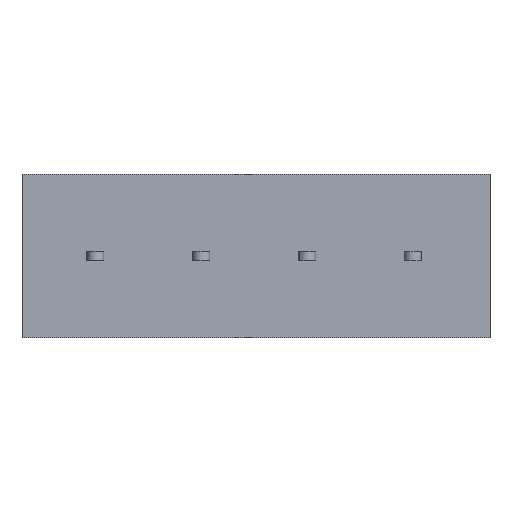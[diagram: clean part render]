
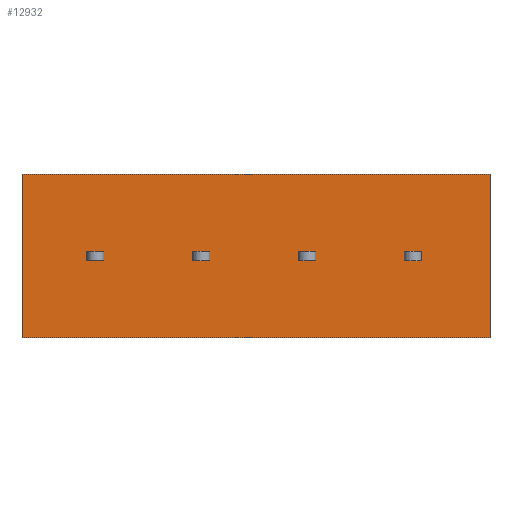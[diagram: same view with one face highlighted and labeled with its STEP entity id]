
A CAD part, front view. The second image highlights one B-rep face of the part: STEP entity #12932.
In plain terms, the highlighted planar face has unit normal (0, -1, 0).
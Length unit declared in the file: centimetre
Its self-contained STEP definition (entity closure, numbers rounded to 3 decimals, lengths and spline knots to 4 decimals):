
#642=VECTOR('',#13622,1.);
#645=VECTOR('',#13628,1.);
#659=VECTOR('',#13659,1.);
#662=VECTOR('',#13667,1.);
#1071=VECTOR('',#14218,1.);
#1178=VECTOR('',#14519,1.);
#1182=VECTOR('',#14524,1.);
#1193=VECTOR('',#14557,1.);
#1195=VECTOR('',#14560,1.);
#1313=VECTOR('',#14874,1.);
#1317=VECTOR('',#14879,1.);
#1328=VECTOR('',#14912,1.);
#1330=VECTOR('',#14915,1.);
#1448=VECTOR('',#15229,1.);
#1452=VECTOR('',#15234,1.);
#1463=VECTOR('',#15267,1.);
#1465=VECTOR('',#15270,1.);
#1966=VECTOR('',#16028,1.);
#1974=VECTOR('',#16045,1.);
#1975=VECTOR('',#16046,1.);
#2042=LINE('',#16328,#642);
#2045=LINE('',#16337,#645);
#2059=LINE('',#16374,#659);
#2062=LINE('',#16382,#662);
#2471=LINE('',#17896,#1071);
#2578=LINE('',#18284,#1178);
#2582=LINE('',#18293,#1182);
#2593=LINE('',#18328,#1193);
#2595=LINE('',#18332,#1195);
#2713=LINE('',#18733,#1313);
#2717=LINE('',#18742,#1317);
#2728=LINE('',#18777,#1328);
#2730=LINE('',#18781,#1330);
#2848=LINE('',#19182,#1448);
#2852=LINE('',#19191,#1452);
#2863=LINE('',#19226,#1463);
#2865=LINE('',#19230,#1465);
#3366=LINE('',#20983,#1966);
#3374=LINE('',#21008,#1974);
#3375=LINE('',#21009,#1975);
#3464=VERTEX_POINT('',#16329);
#3465=VERTEX_POINT('',#16330);
#3468=VERTEX_POINT('',#16338);
#3480=VERTEX_POINT('',#16375);
#3823=VERTEX_POINT('',#17897);
#3824=VERTEX_POINT('',#17898);
#3949=VERTEX_POINT('',#18285);
#3950=VERTEX_POINT('',#18286);
#3953=VERTEX_POINT('',#18294);
#3964=VERTEX_POINT('',#18329);
#4087=VERTEX_POINT('',#18734);
#4088=VERTEX_POINT('',#18735);
#4091=VERTEX_POINT('',#18743);
#4102=VERTEX_POINT('',#18778);
#4225=VERTEX_POINT('',#19183);
#4226=VERTEX_POINT('',#19184);
#4229=VERTEX_POINT('',#19192);
#4240=VERTEX_POINT('',#19227);
#4658=VERTEX_POINT('',#20984);
#4659=VERTEX_POINT('',#20985);
#5008=EDGE_CURVE('',#3464,#3465,#2042,.T.);
#5012=EDGE_CURVE('',#3465,#3468,#2045,.T.);
#5030=EDGE_CURVE('',#3468,#3480,#2059,.T.);
#5034=EDGE_CURVE('',#3480,#3464,#2062,.T.);
#5549=EDGE_CURVE('',#3823,#3824,#2471,.T.);
#5725=EDGE_CURVE('',#3949,#3950,#2578,.T.);
#5729=EDGE_CURVE('',#3953,#3949,#2582,.T.);
#5746=EDGE_CURVE('',#3964,#3953,#2593,.T.);
#5748=EDGE_CURVE('',#3950,#3964,#2595,.T.);
#5931=EDGE_CURVE('',#4087,#4088,#2713,.T.);
#5935=EDGE_CURVE('',#4091,#4087,#2717,.T.);
#5952=EDGE_CURVE('',#4102,#4091,#2728,.T.);
#5954=EDGE_CURVE('',#4088,#4102,#2730,.T.);
#6137=EDGE_CURVE('',#4225,#4226,#2848,.T.);
#6141=EDGE_CURVE('',#4229,#4225,#2852,.T.);
#6158=EDGE_CURVE('',#4240,#4229,#2863,.T.);
#6160=EDGE_CURVE('',#4226,#4240,#2865,.T.);
#6800=EDGE_CURVE('',#4658,#4659,#3366,.T.);
#6812=EDGE_CURVE('',#4659,#3823,#3374,.T.);
#6813=EDGE_CURVE('',#3824,#4658,#3375,.T.);
#10562=ORIENTED_EDGE('',*,*,#5030,.F.);
#10563=ORIENTED_EDGE('',*,*,#5012,.F.);
#10564=ORIENTED_EDGE('',*,*,#5008,.F.);
#10565=ORIENTED_EDGE('',*,*,#5034,.F.);
#10566=ORIENTED_EDGE('',*,*,#5729,.T.);
#10567=ORIENTED_EDGE('',*,*,#5725,.T.);
#10568=ORIENTED_EDGE('',*,*,#5748,.T.);
#10569=ORIENTED_EDGE('',*,*,#5746,.T.);
#10570=ORIENTED_EDGE('',*,*,#5935,.T.);
#10571=ORIENTED_EDGE('',*,*,#5931,.T.);
#10572=ORIENTED_EDGE('',*,*,#5954,.T.);
#10573=ORIENTED_EDGE('',*,*,#5952,.T.);
#10574=ORIENTED_EDGE('',*,*,#6141,.T.);
#10575=ORIENTED_EDGE('',*,*,#6137,.T.);
#10576=ORIENTED_EDGE('',*,*,#6160,.T.);
#10577=ORIENTED_EDGE('',*,*,#6158,.T.);
#10578=ORIENTED_EDGE('',*,*,#6800,.T.);
#10579=ORIENTED_EDGE('',*,*,#6812,.T.);
#10580=ORIENTED_EDGE('',*,*,#5549,.T.);
#10581=ORIENTED_EDGE('',*,*,#6813,.T.);
#11436=EDGE_LOOP('',(#10562,#10563,#10564,#10565));
#11437=EDGE_LOOP('',(#10566,#10567,#10568,#10569));
#11438=EDGE_LOOP('',(#10570,#10571,#10572,#10573));
#11439=EDGE_LOOP('',(#10574,#10575,#10576,#10577));
#11440=EDGE_LOOP('',(#10578,#10579,#10580,#10581));
#12220=FACE_BOUND('',#11436,.T.);
#12221=FACE_BOUND('',#11437,.T.);
#12222=FACE_BOUND('',#11438,.T.);
#12223=FACE_BOUND('',#11439,.T.);
#12224=FACE_BOUND('',#11440,.T.);
#12932=ADVANCED_FACE('',(#12220,#12221,#12222,#12223,#12224),#13416,.T.);
#13416=PLANE('',#21886);
#13622=DIRECTION('',(-1.,0.,0.));
#13628=DIRECTION('',(0.,0.,-1.));
#13659=DIRECTION('',(1.,0.,0.));
#13667=DIRECTION('',(0.,0.,1.));
#14218=DIRECTION('',(0.,0.,1.));
#14519=DIRECTION('',(0.,0.,1.));
#14524=DIRECTION('',(-1.,0.,0.));
#14557=DIRECTION('',(0.,0.,-1.));
#14560=DIRECTION('',(1.,0.,0.));
#14874=DIRECTION('',(0.,0.,1.));
#14879=DIRECTION('',(-1.,0.,0.));
#14912=DIRECTION('',(0.,0.,-1.));
#14915=DIRECTION('',(1.,0.,0.));
#15229=DIRECTION('',(0.,0.,1.));
#15234=DIRECTION('',(-1.,0.,0.));
#15267=DIRECTION('',(0.,0.,-1.));
#15270=DIRECTION('',(1.,0.,0.));
#16028=DIRECTION('',(0.,0.,-1.));
#16044=DIRECTION('',(0.,-1.,0.));
#16045=DIRECTION('',(1.,0.,0.));
#16046=DIRECTION('',(-1.,0.,0.));
#16328=CARTESIAN_POINT('',(-0.685,0.,0.05));
#16329=CARTESIAN_POINT('',(-0.38,0.,0.05));
#16330=CARTESIAN_POINT('',(-0.56,0.,0.05));
#16337=CARTESIAN_POINT('',(-0.56,0.,-0.175));
#16338=CARTESIAN_POINT('',(-0.56,0.,-0.05));
#16374=CARTESIAN_POINT('',(-0.685,0.,-0.05));
#16375=CARTESIAN_POINT('',(-0.38,0.,-0.05));
#16382=CARTESIAN_POINT('',(-0.38,0.,-0.175));
#17896=CARTESIAN_POINT('',(3.63,0.,0.85));
#17897=CARTESIAN_POINT('',(3.63,0.,-0.85));
#17898=CARTESIAN_POINT('',(3.63,0.,0.85));
#18284=CARTESIAN_POINT('',(2.74,0.,-0.175));
#18285=CARTESIAN_POINT('',(2.74,0.,-0.05));
#18286=CARTESIAN_POINT('',(2.74,0.,0.05));
#18293=CARTESIAN_POINT('',(1.415,0.,-0.05));
#18294=CARTESIAN_POINT('',(2.92,0.,-0.05));
#18328=CARTESIAN_POINT('',(2.92,0.,-0.175));
#18329=CARTESIAN_POINT('',(2.92,0.,0.05));
#18332=CARTESIAN_POINT('',(1.415,0.,0.05));
#18733=CARTESIAN_POINT('',(1.64,0.,-0.175));
#18734=CARTESIAN_POINT('',(1.64,0.,-0.05));
#18735=CARTESIAN_POINT('',(1.64,0.,0.05));
#18742=CARTESIAN_POINT('',(0.865,0.,-0.05));
#18743=CARTESIAN_POINT('',(1.82,0.,-0.05));
#18777=CARTESIAN_POINT('',(1.82,0.,-0.175));
#18778=CARTESIAN_POINT('',(1.82,0.,0.05));
#18781=CARTESIAN_POINT('',(0.865,0.,0.05));
#19182=CARTESIAN_POINT('',(0.54,0.,-0.175));
#19183=CARTESIAN_POINT('',(0.54,0.,-0.05));
#19184=CARTESIAN_POINT('',(0.54,0.,0.05));
#19191=CARTESIAN_POINT('',(0.315,0.,-0.05));
#19192=CARTESIAN_POINT('',(0.72,0.,-0.05));
#19226=CARTESIAN_POINT('',(0.72,0.,-0.175));
#19227=CARTESIAN_POINT('',(0.72,0.,0.05));
#19230=CARTESIAN_POINT('',(0.315,0.,0.05));
#20983=CARTESIAN_POINT('',(-1.23,0.,-0.85));
#20984=CARTESIAN_POINT('',(-1.23,0.,0.85));
#20985=CARTESIAN_POINT('',(-1.23,0.,-0.85));
#21007=CARTESIAN_POINT('',(-1.1,0.,0.));
#21008=CARTESIAN_POINT('',(-1.1,0.,-0.85));
#21009=CARTESIAN_POINT('',(-1.1,0.,0.85));
#21886=AXIS2_PLACEMENT_3D('',#21007,#16044,$);
